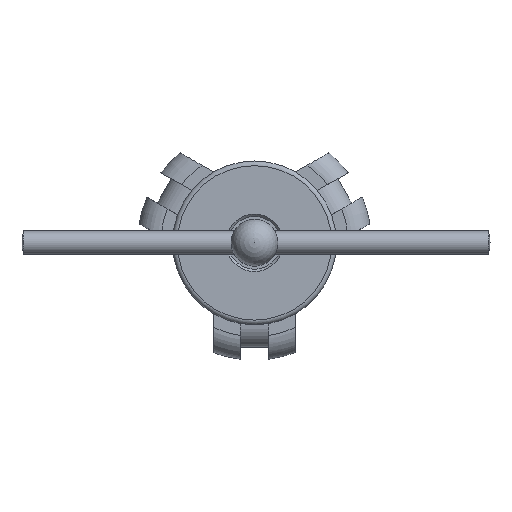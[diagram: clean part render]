
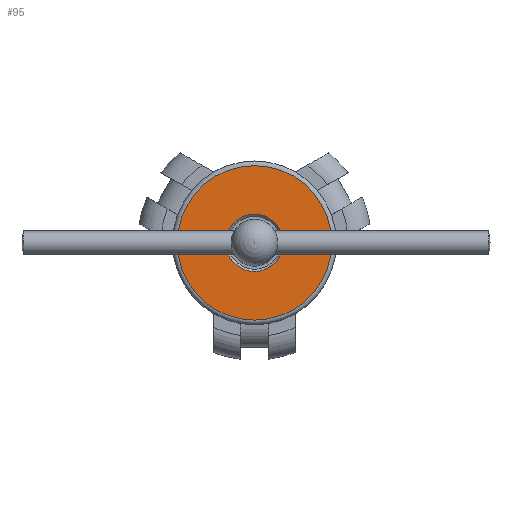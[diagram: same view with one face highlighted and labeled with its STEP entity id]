
A CAD part, top view. The second image highlights one B-rep face of the part: STEP entity #95.
In plain terms, the highlighted planar face has unit normal (0, 0, 1).
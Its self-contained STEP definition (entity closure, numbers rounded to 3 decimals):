
#68=CARTESIAN_POINT('',(-36.3,-36.3,34.687));
#69=DIRECTION('',(0.0,0.0,1.0));
#70=DIRECTION('',(1.0,0.0,0.0));
#71=AXIS2_PLACEMENT_3D('',#68,#69,#70);
#72=PLANE('',#71);
#73=CARTESIAN_POINT('',(33.0,0.,34.687));
#74=VERTEX_POINT('',#73);
#75=CARTESIAN_POINT('',(0.,0.,34.687));
#76=DIRECTION('',(0.0,0.0,1.0));
#77=DIRECTION('',(1.0,0.0,0.0));
#78=AXIS2_PLACEMENT_3D('',#75,#76,#77);
#79=CIRCLE('',#78,33.0);
#80=EDGE_CURVE('',#74,#74,#79,.T.);
#81=ORIENTED_EDGE('',*,*,#80,.T.);
#82=EDGE_LOOP('',(#81));
#83=FACE_OUTER_BOUND('',#82,.T.);
#84=CARTESIAN_POINT('',(12.25,0.,34.687));
#85=VERTEX_POINT('',#84);
#86=CARTESIAN_POINT('',(0.,0.,34.687));
#87=DIRECTION('',(0.,0.,-1.0));
#88=DIRECTION('',(1.0,0.,0.));
#89=AXIS2_PLACEMENT_3D('',#86,#87,#88);
#90=CIRCLE('',#89,12.25);
#91=EDGE_CURVE('',#85,#85,#90,.T.);
#92=ORIENTED_EDGE('',*,*,#91,.T.);
#93=EDGE_LOOP('',(#92));
#94=FACE_BOUND('',#93,.T.);
#95=ADVANCED_FACE('',(#83,#94),#72,.T.);
